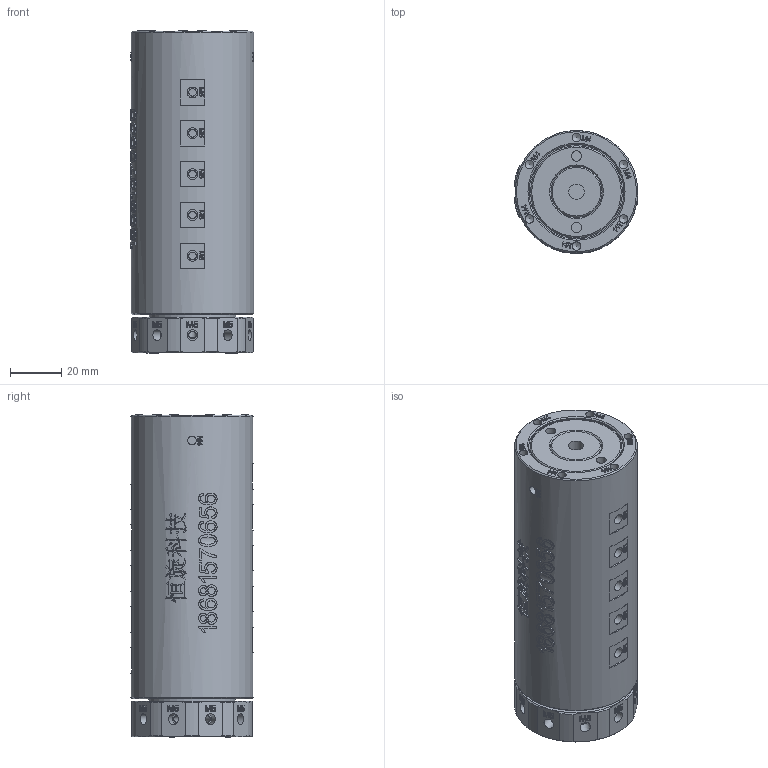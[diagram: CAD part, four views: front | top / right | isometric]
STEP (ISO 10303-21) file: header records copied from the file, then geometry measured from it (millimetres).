
FILE_DESCRIPTION(/* description */ (''),/* implementation_level */ '2;1');
FILE_NAME(/* name */ 'HQ10005-3D模型.stp',/* time_stamp */ '2025-09-05T13:57:28+08:00',/* author */ (''),/* organization */ (''),/* preprocessor_version */ 'ST-DEVELOPER v16.7',/* originating_system */ 'SIEMENS PLM Software NX 12.0',/* authorisation */ '');
FILE_SCHEMA (('AUTOMOTIVE_DESIGN { 1 0 10303 214 3 1 1 1 }'));
Products named in the file (1): AdmiFA3485D63p53
Bounding box: 48.42 x 48 x 126.4 mm (x, y, z)
Volume: 221015.5 mm3; surface area: 31580.9 mm2
Topology: 1 solids, 1 shells, 1954 faces, 5349 edges, 3561 vertices
Faces by surface type: plane 1029, extrusion 675, cylinder 123, bspline 90, cone 37
Full cylindrical faces by diameter (mm): 3 x30, 3.4 x12, 4 x12, 4.2 x30, 6 x2, 34 x1, 37 x1, 42 x1, 48 x1
Entity records: 70782 total; most frequent: CARTESIAN_POINT 28259, ORIENTED_EDGE 10298, DIRECTION 5459, EDGE_CURVE 5149, B_SPLINE_CURVE_WITH_KNOTS 3831, VERTEX_POINT 3479, VECTOR 2257, EDGE_LOOP 2246
